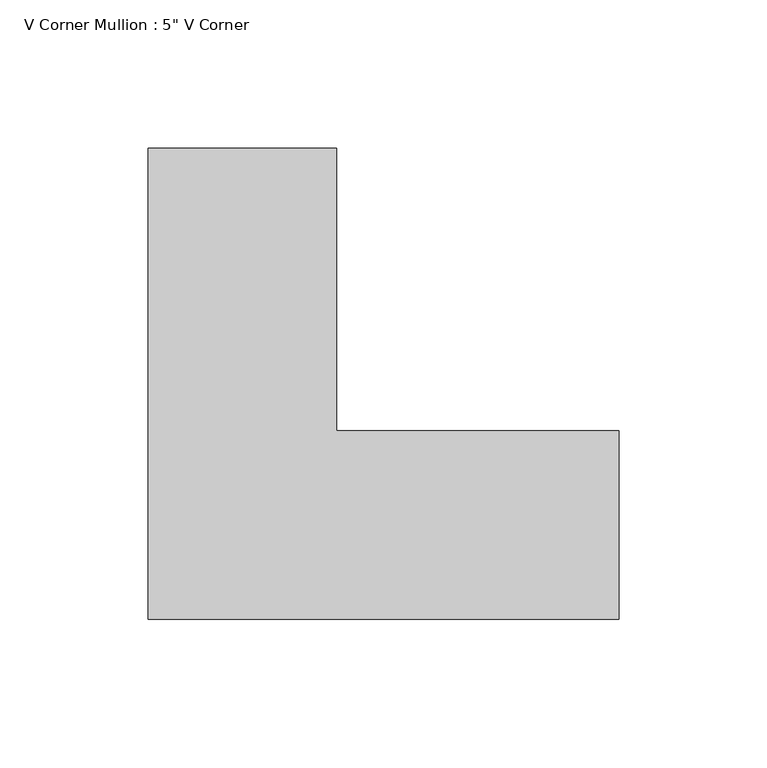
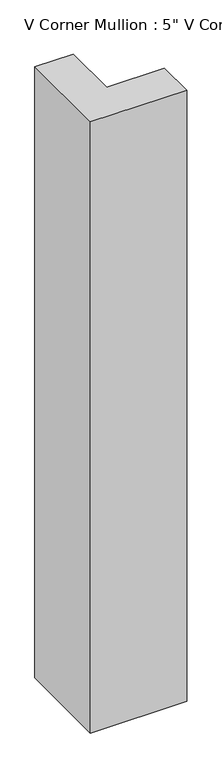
"""IFC4 building model written with IfcOpenShell, lengths in millimetres: member geometry."""

from ifc_helpers import new_model, si_unit, frame, origin, place, context, project, spatial, polyline, outline, extrude, source, transform, mapped, element, save


def member_387caf8a(model_context):
    return source(origin(), model_context, "Body", "SweptSolid", [
        extrude(outline(polyline([(63.5, -95.25), (-95.25, -95.25), (-95.25, 63.5), (-31.75, 63.5), (-31.75, -31.75), (63.5, -31.75), (63.5, -95.25)])), frame((0.0, 0.0, -1066.8), z_axis=(0.0, 0.0, 1.0), x_axis=(1.0, 0.0, 0.0)), (0.0, 0.0, 1.0), 1066.8),
    ])


if __name__ == "__main__":
    model = new_model("IFC4")
    model_context = context("Model", 3, world=origin())
    ifc_project = project(units=[si_unit("LENGTHUNIT", "METRE", prefix="MILLI")], contexts=[model_context])
    site = spatial("IfcSite", under=ifc_project)
    building = spatial("IfcBuilding", under=site)
    placement = place(None, origin())
    member_shape = member_387caf8a(model_context)
    element("IfcMember", 1, ObjectType="V Corner Mullion : 5\" V Corner", at=placement, inside=building, context=model_context, shape_type="MappedRepresentation", body=[
        mapped(member_shape, transform((0.0, 0.0, 0.0), x_axis=(1.0, 0.0, 0.0), y_axis=(0.0, 1.0, 0.0), z_axis=(0.0, 0.0, 1.0))),
    ])
    save(model, "model.ifc")
